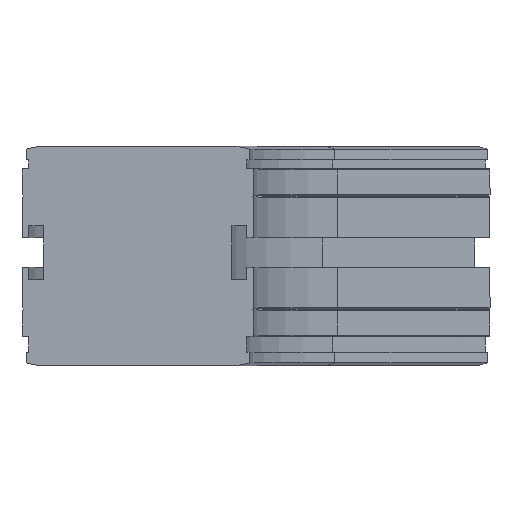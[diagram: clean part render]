
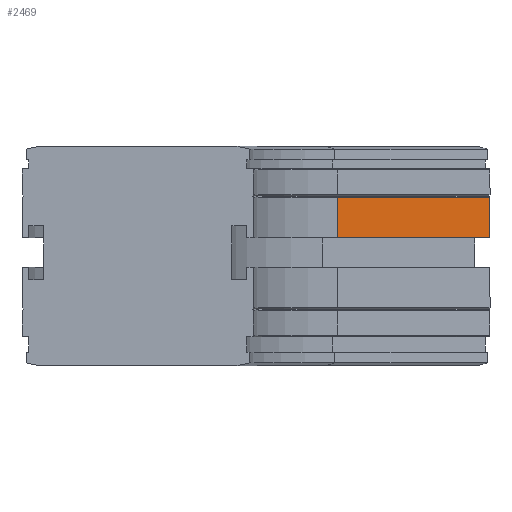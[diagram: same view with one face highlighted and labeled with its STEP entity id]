
A CAD part, left-side view. The second image highlights one B-rep face of the part: STEP entity #2469.
In plain terms, the highlighted planar face has unit normal (-0.707, -0.707, 0).
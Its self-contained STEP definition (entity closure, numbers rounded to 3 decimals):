
#2430=CARTESIAN_POINT('',(155.66,-74.34,-34.));
#2431=DIRECTION('',(-0.707,-0.707,0.));
#2432=DIRECTION('',(0.0,0.0,1.0));
#2433=AXIS2_PLACEMENT_3D('',#2430,#2431,#2432);
#2434=PLANE('',#2433);
#2435=CARTESIAN_POINT('',(212.229,-130.908,-34.));
#2436=VERTEX_POINT('',#2435);
#2437=CARTESIAN_POINT('',(212.229,-130.908,-19.));
#2438=VERTEX_POINT('',#2437);
#2439=CARTESIAN_POINT('',(212.229,-130.908,-34.));
#2440=DIRECTION('',(0.0,0.0,1.0));
#2441=VECTOR('',#2440,15.);
#2442=LINE('',#2439,#2441);
#2443=EDGE_CURVE('',#2436,#2438,#2442,.T.);
#2444=ORIENTED_EDGE('',*,*,#2443,.T.);
#2445=CARTESIAN_POINT('',(155.66,-74.34,-19.));
#2446=VERTEX_POINT('',#2445);
#2447=CARTESIAN_POINT('',(155.66,-74.34,-19.));
#2448=DIRECTION('',(0.707,-0.707,0.0));
#2449=VECTOR('',#2448,80.);
#2450=LINE('',#2447,#2449);
#2451=EDGE_CURVE('',#2446,#2438,#2450,.T.);
#2452=ORIENTED_EDGE('',*,*,#2451,.F.);
#2453=CARTESIAN_POINT('',(155.66,-74.34,-34.));
#2454=VERTEX_POINT('',#2453);
#2455=CARTESIAN_POINT('',(155.66,-74.34,-34.));
#2456=DIRECTION('',(0.0,0.0,1.0));
#2457=VECTOR('',#2456,15.);
#2458=LINE('',#2455,#2457);
#2459=EDGE_CURVE('',#2454,#2446,#2458,.T.);
#2460=ORIENTED_EDGE('',*,*,#2459,.F.);
#2461=CARTESIAN_POINT('',(155.66,-74.34,-34.));
#2462=DIRECTION('',(0.707,-0.707,0.0));
#2463=VECTOR('',#2462,80.);
#2464=LINE('',#2461,#2463);
#2465=EDGE_CURVE('',#2454,#2436,#2464,.T.);
#2466=ORIENTED_EDGE('',*,*,#2465,.T.);
#2467=EDGE_LOOP('',(#2444,#2452,#2460,#2466));
#2468=FACE_OUTER_BOUND('',#2467,.T.);
#2469=ADVANCED_FACE('',(#2468),#2434,.T.);
